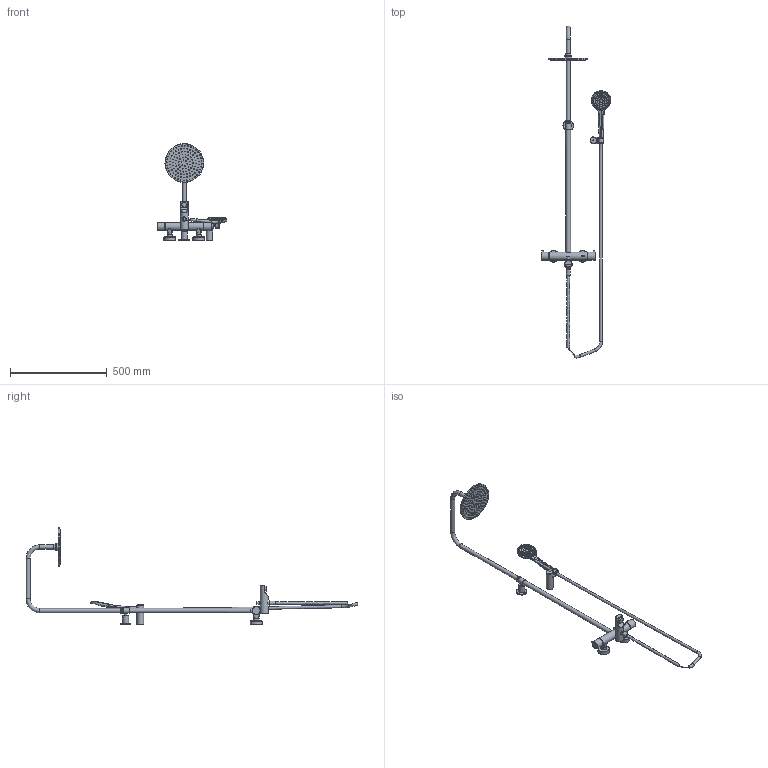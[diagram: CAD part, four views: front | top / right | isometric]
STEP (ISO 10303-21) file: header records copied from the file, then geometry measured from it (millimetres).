
FILE_DESCRIPTION(('STEP AP242'), '1');
FILE_NAME('78YO687TH', '', ('UNSPECIFIED'), ('UNSPECIFIED'), 'C3D Converter', 'C3D Toolkit', '');
FILE_SCHEMA(('AP242_MANAGED_MODEL_BASED_3D_ENGINEERING_MIM_LF { 1 0 10303 442 1 1 4 }'));
Length unit declared in the file: millimetre
Products named in the file (4): лейка
Assembly tree (3 placements, depth 2):
  (unnamed)
    (unnamed)
    (unnamed)
    лейка
Bounding box: 359.99 x 1717.39 x 500 mm (x, y, z)
Volume: 1635142.8 mm3; surface area: 528465.4 mm2
Topology: 138 solids, 141 shells, 1177 faces, 2471 edges, 1678 vertices
Faces by surface type: plane 459, cone 258, cylinder 227, torus 120, bspline 71, extrusion 35, sphere 6, revolution 1
Full cylindrical faces by diameter (mm): 3 x160, 7 x1, 8 x2, 12 x1, 14 x1, 18 x1, 20 x6, 22 x7, 24 x1, 26 x1, 28 x3, 32 x1, 34 x3, 35 x1, 38 x1, 40 x1, 42 x3, 55 x1, 58 x2, 60 x2, 200 x1
Entity records: 54944 total; most frequent: CARTESIAN_POINT 20245, DIRECTION 5079, ORIENTED_EDGE 3684, AXIS2_PLACEMENT_3D 2396, EDGE_LOOP 2284, EDGE_CURVE 1842, VERTEX_POINT 1634, FACE_BOUND 1385
